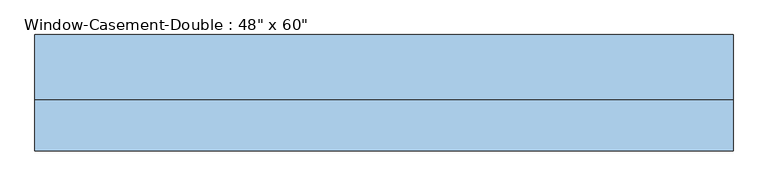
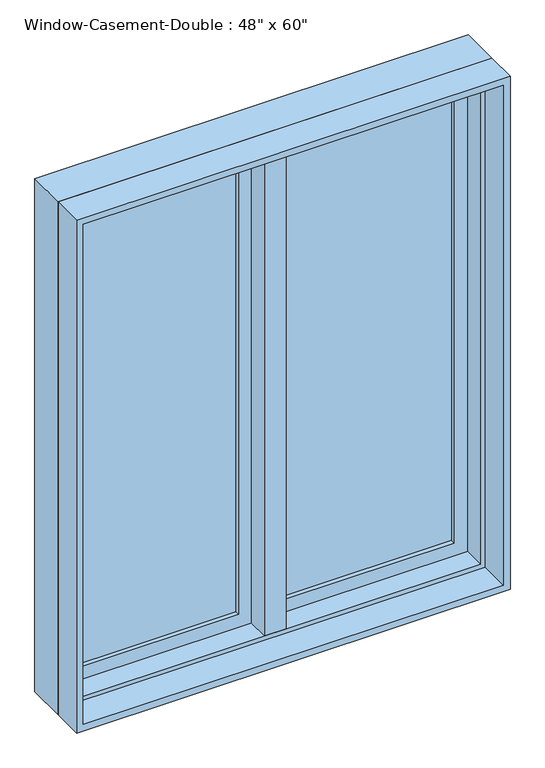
"""IFC4 building model written with IfcOpenShell, lengths in millimetres: window geometry."""

from ifc_helpers import new_model, si_unit, frame, origin, place, context, project, spatial, polyline, outline, extrude, faceted_brep, source, transform, mapped, element, save


def window_87d44ff0(model_context):
    return source(origin(), model_context, "Body", "SolidModel", [
        faceted_brep([(9.525, 111.125, 2425.7), (-9.525, 111.125, 2425.7), (-9.525, 60.325, 2425.7), (9.525, 60.325, 2425.7), (9.525, 111.125, 927.1), (9.525, 60.325, 927.1), (-9.525, 60.325, 927.1), (-9.525, 111.125, 927.1), (-9.525, 60.325, 946.15), (-9.525, 60.325, 2406.65), (-30.1625, 60.325, 946.15), (-30.1625, 60.325, 2406.65), (-30.1625, -3.175, 946.15), (-30.1625, -3.175, 2406.65), (30.1625, -3.175, 946.15), (30.1625, -3.175, 2406.65), (30.1625, 60.325, 946.15), (30.1625, 60.325, 2406.65), (9.525, 60.325, 946.15), (9.525, 60.325, 2406.65)], [[[0, 1, 2, 3]], [[4, 5, 6, 7]], [[1, 0, 4, 7]], [[2, 1, 7, 6, 8, 9]], [[9, 8, 10, 11]], [[11, 10, 12, 13]], [[13, 12, 14, 15]], [[15, 14, 16, 17]], [[17, 16, 18, 19]], [[0, 3, 19, 18, 5, 4]], [[18, 8, 6, 5]], [[9, 19, 3, 2]], [[8, 18, 16, 14, 12, 10]], [[19, 9, 11, 13, 15, 17]]]),
        extrude(outline(polyline([(-66.675, 92.075), (-66.675, 85.725), (-539.75, 85.725), (-539.75, 92.075), (-66.675, 92.075)])), frame((0.0, 0.0, 984.25), z_axis=(0.0, 0.0, 1.0), x_axis=(1.0, 0.0, 0.0)), (0.0, 0.0, 1.0), 1384.3),
        extrude(outline(polyline([(-539.75, 73.025), (-539.75, 79.375), (-66.675, 79.375), (-66.675, 73.025), (-539.75, 73.025)])), frame((0.0, 0.0, 984.25), z_axis=(0.0, 0.0, 1.0), x_axis=(1.0, 0.0, 0.0)), (0.0, 0.0, 1.0), 1384.3),
        extrude(outline(polyline([(539.75, 92.075), (539.75, 85.725), (66.675, 85.725), (66.675, 92.075), (539.75, 92.075)])), frame((0.0, 0.0, 984.25), z_axis=(0.0, 0.0, 1.0), x_axis=(1.0, 0.0, 0.0)), (0.0, 0.0, 1.0), 1384.3),
        extrude(outline(polyline([(66.675, 73.025), (66.675, 79.375), (539.75, 79.375), (539.75, 73.025), (66.675, 73.025)])), frame((0.0, 0.0, 984.25), z_axis=(0.0, 0.0, 1.0), x_axis=(1.0, 0.0, 0.0)), (0.0, 0.0, 1.0), 1384.3),
        extrude(outline(polyline([(2425.7, -596.9), (927.1, -596.9), (927.1, -9.525), (2425.7, -9.525), (2425.7, -596.9)]), holes=[polyline([(2368.55, -66.675), (984.25, -66.675), (984.25, -539.75), (2368.55, -539.75), (2368.55, -66.675)])]), frame((0.0, 60.325, 0.0), z_axis=(0.0, 1.0, 0.0), x_axis=(0.0, 0.0, 1.0)), (0.0, 0.0, 1.0), 44.45),
        extrude(outline(polyline([(927.1, 596.9), (2425.7, 596.9), (2425.7, 9.525), (927.1, 9.525), (927.1, 596.9)]), holes=[polyline([(984.25, 66.675), (2368.55, 66.675), (2368.55, 539.75), (984.25, 539.75), (984.25, 66.675)])]), frame((0.0, 60.325, 0.0), z_axis=(0.0, 1.0, 0.0), x_axis=(0.0, 0.0, 1.0)), (0.0, 0.0, 1.0), 44.45),
        extrude(outline(polyline([(2438.4, -609.6), (914.4, -609.6), (914.4, 609.6), (2438.4, 609.6), (2438.4, -609.6)]), holes=[polyline([(2419.35, 590.55), (933.45, 590.55), (933.45, -590.55), (2419.35, -590.55), (2419.35, 590.55)])]), frame((0.0, -92.075, 0.0), z_axis=(0.0, 1.0, 0.0), x_axis=(0.0, 0.0, 1.0)), (0.0, 0.0, 1.0), 88.9),
        faceted_brep([(577.85, 60.325, 2406.65), (577.85, -3.175, 2406.65), (-577.85, -3.175, 2406.65), (-577.85, 60.325, 2406.65), (596.9, 111.125, 2425.7), (596.9, 60.325, 2425.7), (-596.9, 60.325, 2425.7), (-596.9, 111.125, 2425.7), (609.6, -3.175, 2438.4), (609.6, 111.125, 2438.4), (-609.6, 111.125, 2438.4), (-609.6, -3.175, 2438.4), (-577.85, -3.175, 946.15), (-577.85, 60.325, 946.15), (-596.9, 60.325, 927.1), (-596.9, 111.125, 927.1), (-609.6, 111.125, 914.4), (-609.6, -3.175, 914.4), (577.85, -3.175, 946.15), (577.85, 60.325, 946.15), (596.9, 60.325, 927.1), (596.9, 111.125, 927.1), (609.6, 111.125, 914.4), (609.6, -3.175, 914.4)], [[[0, 1, 2, 3]], [[4, 5, 6, 7]], [[8, 9, 10, 11]], [[3, 2, 12, 13]], [[7, 6, 14, 15]], [[11, 10, 16, 17]], [[13, 12, 18, 19]], [[15, 14, 20, 21]], [[17, 16, 22, 23]], [[11, 17, 23, 8], [1, 18, 12, 2]], [[19, 18, 1, 0]], [[5, 20, 14, 6], [3, 13, 19, 0]], [[21, 20, 5, 4]], [[23, 22, 9, 8]], [[9, 22, 16, 10], [7, 15, 21, 4]]]),
    ])


if __name__ == "__main__":
    model = new_model("IFC4")
    model_context = context("Model", 3, world=origin())
    ifc_project = project(units=[si_unit("LENGTHUNIT", "METRE", prefix="MILLI")], contexts=[model_context])
    site = spatial("IfcSite", under=ifc_project)
    building = spatial("IfcBuilding", under=site)
    placement = place(None, origin())
    window_shape = window_87d44ff0(model_context)
    element("IfcWindow", 1, ObjectType="Window-Casement-Double : 48\" x 60\"", at=placement, inside=building, context=model_context, shape_type="MappedRepresentation", body=[
        mapped(window_shape, transform((0.0, 0.0, 0.0), x_axis=(1.0, 0.0, 0.0), y_axis=(0.0, 1.0, 0.0), z_axis=(0.0, 0.0, 1.0))),
    ])
    save(model, "model.ifc")
